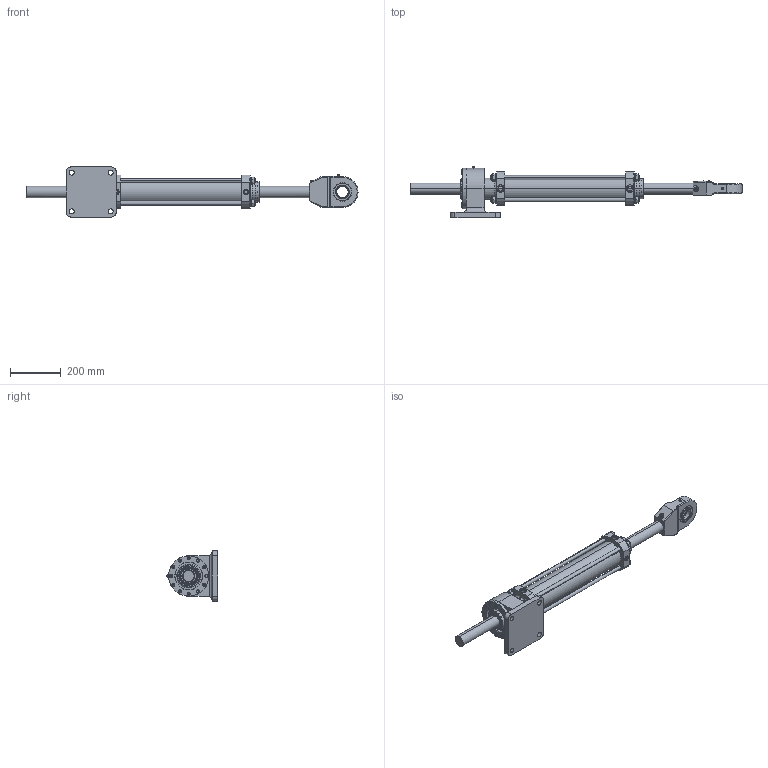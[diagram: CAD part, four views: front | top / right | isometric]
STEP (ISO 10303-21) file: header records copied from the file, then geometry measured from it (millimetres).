
FILE_DESCRIPTION (( 'STEP AP214' ), '1' );
FILE_NAME ('7800-0050_revA.STEP', '2019-08-23T18:27:17', ( '' ), ( '' ), 'SwSTEP 2.0', 'SolidWorks 2019', '' );
FILE_SCHEMA (( 'AUTOMOTIVE_DESIGN' ));
Length unit declared in the file: inch
Products named in the file (1): 7800-0050_revA
Bounding box: 1303.35 x 202.62 x 196.85 mm (x, y, z)
Surface area: 859012 mm2 (no closed solid volume)
Topology: 0 solids, 133 shells, 1014 faces, 3271 edges, 2339 vertices
Faces by surface type: plane 442, cylinder 283, cone 165, torus 64, bspline 52, sphere 8
Entity records: 58006 total; most frequent: CARTESIAN_POINT 17505, DIRECTION 5564, ORIENTED_EDGE 4927, EDGE_CURVE 3267, VERTEX_POINT 2339, AXIS2_PLACEMENT_3D 2131, VECTOR 1302, LINE 1302
